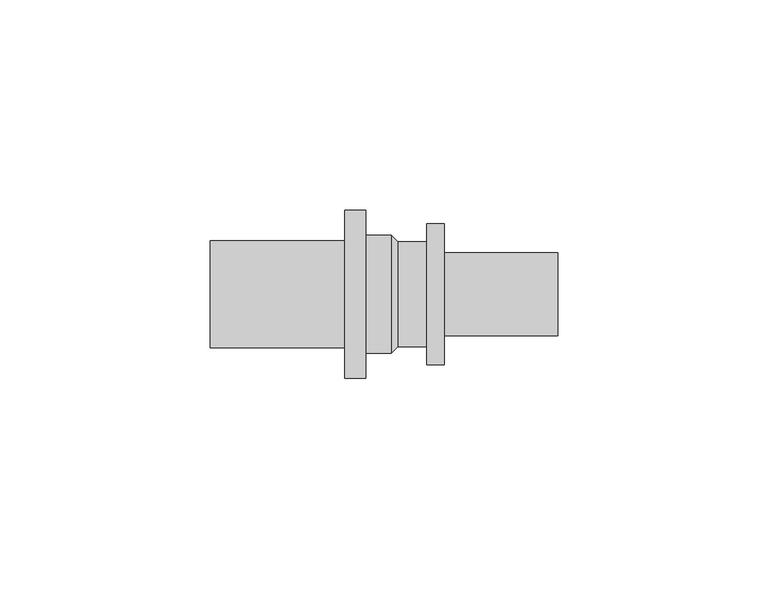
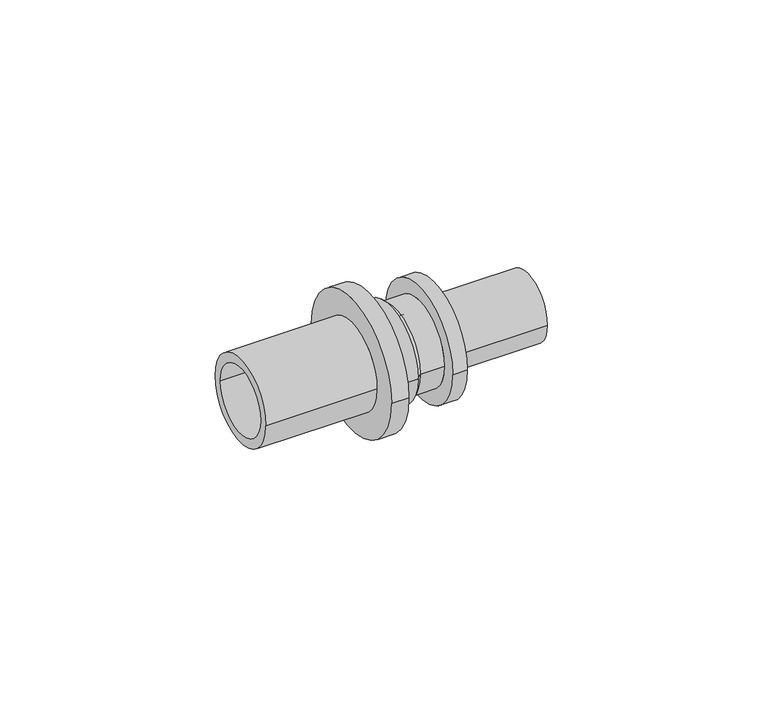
"""IFC4 building model written with IfcOpenShell, lengths in millimetres: pipe fitting geometry, RAUTITAN_Transition_LX : RTI LX Tr DE."""

from ifc_helpers import new_model, si_unit, frame, origin, place, context, project, spatial, polyline, circle_curve, source, transform, mapped, element, save
from ifc_brep_helpers import plane_surface, cylinder_surface, revolved_surface, advanced_brep


def pipe_fitting_d834bf19(model_context):
    return source(origin(), model_context, "Body", "AdvancedBrep", [
        advanced_brep(
        [(-43.85, 10.0, 0.0), (-43.85, -10.0, 0.0), (-1.2, -10.0, 0.0), (-1.2, 10.0, 0.0), (-0.75, 14.0, 0.0), (-0.75, -14.0, 0.0), (-6.85, -14.0, 0.0), (-6.85, 14.0, 0.0), (0.75, 12.5, 0.0), (0.75, -12.5, 0.0), (7.65, 12.5, 0.0), (7.65, -12.5, 0.0), (11.85, 16.8, 0.0), (11.85, -16.8, 0.0), (7.65, -16.8, 0.0), (7.65, 16.8, 0.0), (38.85, 9.9, 0.0), (38.85, -9.9, 0.0), (11.85, -9.9, 0.0), (11.85, 9.9, 0.0), (1.2, 7.6, 0.0), (1.2, -7.6, 0.0), (38.85, -7.6, 0.0), (38.85, 7.6, 0.0), (-6.85, 20.0, 0.0), (-6.85, -20.0, 0.0), (-11.85, 12.7, 0.0), (-11.85, -12.7, 0.0), (-43.85, -12.7, 0.0), (-43.85, 12.7, 0.0), (-11.85, -20.0, 0.0), (-11.85, 20.0, 0.0)],
        [
            (0, 1, circle_curve(frame((-43.85, 0.0, 0.0), z_axis=(-1.0, 0.0, 0.0), x_axis=(0.0, -1.0, 0.0)), 10.0)),
            (1, 2),
            (2, 3, circle_curve(frame((-1.2, 0.0, 0.0), z_axis=(1.0, 0.0, 0.0), x_axis=(0.0, -1.0, 0.0)), 10.0)),
            (3, 0),
            (4, 5, circle_curve(frame((-0.75, 0.0, 0.0), z_axis=(-1.0, 0.0, 0.0), x_axis=(0.0, -1.0, 0.0)), 14.0)),
            (5, 6),
            (6, 7, circle_curve(frame((-6.85, 0.0, 0.0), z_axis=(1.0, 0.0, 0.0), x_axis=(0.0, -1.0, 0.0)), 14.0)),
            (7, 4),
            (8, 9, circle_curve(frame((0.75, 0.0, 0.0), z_axis=(-1.0, 0.0, 0.0), x_axis=(0.0, -1.0, 0.0)), 12.5)),
            (9, 5),
            (4, 8),
            (10, 11, circle_curve(frame((7.65, 0.0, 0.0), z_axis=(-1.0, 0.0, 0.0), x_axis=(0.0, -1.0, 0.0)), 12.5)),
            (11, 9),
            (8, 10),
            (12, 13, circle_curve(frame((11.85, 0.0, 0.0), z_axis=(-1.0, 0.0, 0.0), x_axis=(0.0, -1.0, 0.0)), 16.8)),
            (13, 14),
            (14, 15, circle_curve(frame((7.65, 0.0, 0.0), z_axis=(1.0, 0.0, 0.0), x_axis=(0.0, -1.0, 0.0)), 16.8)),
            (15, 12),
            (16, 17, circle_curve(frame((38.85, 0.0, 0.0), z_axis=(-1.0, 0.0, 0.0), x_axis=(0.0, -1.0, 0.0)), 9.9)),
            (17, 18),
            (18, 19, circle_curve(frame((11.85, 0.0, 0.0), z_axis=(1.0, 0.0, 0.0), x_axis=(0.0, -1.0, 0.0)), 9.9)),
            (19, 16),
            (20, 21, circle_curve(frame((1.2, 0.0, 0.0), z_axis=(-1.0, 0.0, 0.0), x_axis=(0.0, -1.0, 0.0)), 7.6)),
            (21, 22),
            (22, 23, circle_curve(frame((38.85, 0.0, 0.0), z_axis=(1.0, 0.0, 0.0), x_axis=(0.0, -1.0, 0.0)), 7.6)),
            (23, 20),
            (2, 21),
            (20, 3),
            (1, 0, circle_curve(frame((-43.85, 0.0, 0.0), z_axis=(-1.0, 0.0, 0.0), x_axis=(0.0, 1.0, 0.0)), 10.0)),
            (3, 2, circle_curve(frame((-1.2, 0.0, 0.0), z_axis=(1.0, 0.0, 0.0), x_axis=(0.0, 1.0, 0.0)), 10.0)),
            (24, 25, circle_curve(frame((-6.85, 0.0, 0.0), z_axis=(1.0, 0.0, 0.0), x_axis=(0.0, 1.0, 0.0)), 20.0)),
            (25, 24, circle_curve(frame((-6.85, 0.0, 0.0), z_axis=(1.0, 0.0, 0.0), x_axis=(0.0, -1.0, 0.0)), 20.0)),
            (6, 7, circle_curve(frame((-6.85, 0.0, 0.0), z_axis=(-1.0, 0.0, 0.0), x_axis=(0.0, 1.0, 0.0)), 14.0)),
            (5, 4, circle_curve(frame((-0.75, 0.0, 0.0), z_axis=(-1.0, 0.0, 0.0), x_axis=(0.0, 1.0, 0.0)), 14.0)),
            (9, 8, circle_curve(frame((0.75, 0.0, 0.0), z_axis=(-1.0, 0.0, 0.0), x_axis=(0.0, 1.0, 0.0)), 12.5)),
            (11, 10, circle_curve(frame((7.65, 0.0, 0.0), z_axis=(-1.0, 0.0, 0.0), x_axis=(0.0, 1.0, 0.0)), 12.5)),
            (14, 15, circle_curve(frame((7.65, 0.0, 0.0), z_axis=(-1.0, 0.0, 0.0), x_axis=(0.0, 1.0, 0.0)), 16.8)),
            (13, 12, circle_curve(frame((11.85, 0.0, 0.0), z_axis=(-1.0, 0.0, 0.0), x_axis=(0.0, 1.0, 0.0)), 16.8)),
            (18, 19, circle_curve(frame((11.85, 0.0, 0.0), z_axis=(-1.0, 0.0, 0.0), x_axis=(0.0, 1.0, 0.0)), 9.9)),
            (17, 16, circle_curve(frame((38.85, 0.0, 0.0), z_axis=(-1.0, 0.0, 0.0), x_axis=(0.0, 1.0, 0.0)), 9.9)),
            (22, 23, circle_curve(frame((38.85, 0.0, 0.0), z_axis=(-1.0, 0.0, 0.0), x_axis=(0.0, 1.0, 0.0)), 7.6)),
            (21, 20, circle_curve(frame((1.2, 0.0, 0.0), z_axis=(-1.0, 0.0, 0.0), x_axis=(0.0, 1.0, 0.0)), 7.6)),
            (26, 27, circle_curve(frame((-11.85, 0.0, 0.0), z_axis=(-1.0, 0.0, 0.0), x_axis=(0.0, -1.0, 0.0)), 12.7)),
            (27, 28),
            (28, 29, circle_curve(frame((-43.85, 0.0, 0.0), z_axis=(1.0, 0.0, 0.0), x_axis=(0.0, -1.0, 0.0)), 12.7)),
            (29, 26),
            (25, 30),
            (30, 31, circle_curve(frame((-11.85, 0.0, 0.0), z_axis=(1.0, 0.0, 0.0), x_axis=(0.0, -1.0, 0.0)), 20.0)),
            (31, 24),
            (28, 29, circle_curve(frame((-43.85, 0.0, 0.0), z_axis=(-1.0, 0.0, 0.0), x_axis=(0.0, 1.0, 0.0)), 12.7)),
            (27, 26, circle_curve(frame((-11.85, 0.0, 0.0), z_axis=(-1.0, 0.0, 0.0), x_axis=(0.0, 1.0, 0.0)), 12.7)),
            (30, 31, circle_curve(frame((-11.85, 0.0, 0.0), z_axis=(-1.0, 0.0, 0.0), x_axis=(0.0, 1.0, 0.0)), 20.0)),
        ],
        [
            revolved_surface(polyline([(-1.2, -10.0, 0.0), (-43.85, -10.0, 0.0)]), (0.0, 0.0, 0.0), (1.0, 0.0, 0.0)),
            cylinder_surface(frame((0.0, 0.0, 0.0), z_axis=(1.0, 0.0, 0.0), x_axis=(0.0, -1.0, 0.0)), 14.0),
            revolved_surface(polyline([(-0.75, -14.0, 0.0), (0.75, -12.5, 0.0)]), (0.0, 0.0, 0.0), (1.0, 0.0, 0.0)),
            cylinder_surface(frame((0.0, 0.0, 0.0), z_axis=(1.0, 0.0, 0.0), x_axis=(0.0, -1.0, 0.0)), 12.5),
            cylinder_surface(frame((0.0, 0.0, 0.0), z_axis=(1.0, 0.0, 0.0), x_axis=(0.0, -1.0, 0.0)), 16.8),
            cylinder_surface(frame((0.0, 0.0, 0.0), z_axis=(1.0, 0.0, 0.0), x_axis=(0.0, -1.0, 0.0)), 9.9),
            revolved_surface(polyline([(38.85, -7.6, 0.0), (1.2, -7.6, 0.0)]), (0.0, 0.0, 0.0), (1.0, 0.0, 0.0)),
            revolved_surface(polyline([(1.2, -7.6, 0.0), (-1.2, -10.0, 0.0)]), (0.0, 0.0, 0.0), (1.0, 0.0, 0.0)),
            revolved_surface(polyline([(-1.2, 10.0, 0.0), (-43.85, 10.0, 0.0)]), (0.0, 0.0, 0.0), (1.0, 0.0, 0.0)),
            plane_surface(frame((-6.85, 0.0, 0.0), z_axis=(1.0, 0.0, 0.0), x_axis=(0.0, 1.0, 0.0))),
            cylinder_surface(frame((0.0, 0.0, 0.0), z_axis=(1.0, 0.0, 0.0), x_axis=(0.0, 1.0, 0.0)), 14.0),
            revolved_surface(polyline([(-0.75, 14.0, 0.0), (0.75, 12.5, 0.0)]), (0.0, 0.0, 0.0), (1.0, 0.0, 0.0)),
            cylinder_surface(frame((0.0, 0.0, 0.0), z_axis=(1.0, 0.0, 0.0), x_axis=(0.0, 1.0, 0.0)), 12.5),
            plane_surface(frame((7.65, 0.0, 0.0), z_axis=(-1.0, 0.0, 0.0), x_axis=(0.0, 1.0, 0.0))),
            cylinder_surface(frame((0.0, 0.0, 0.0), z_axis=(1.0, 0.0, 0.0), x_axis=(0.0, 1.0, 0.0)), 16.8),
            plane_surface(frame((11.85, 0.0, 0.0), z_axis=(1.0, 0.0, 0.0), x_axis=(0.0, 1.0, 0.0))),
            cylinder_surface(frame((0.0, 0.0, 0.0), z_axis=(1.0, 0.0, 0.0), x_axis=(0.0, 1.0, 0.0)), 9.9),
            plane_surface(frame((38.85, 0.0, 0.0), z_axis=(1.0, 0.0, 0.0), x_axis=(0.0, 1.0, 0.0))),
            revolved_surface(polyline([(38.85, 7.6, 0.0), (1.2, 7.6, 0.0)]), (0.0, 0.0, 0.0), (1.0, 0.0, 0.0)),
            revolved_surface(polyline([(1.2, 7.6, 0.0), (-1.2, 10.0, 0.0)]), (0.0, 0.0, 0.0), (1.0, 0.0, 0.0)),
            cylinder_surface(frame((0.0, 0.0, 0.0), z_axis=(1.0, 0.0, 0.0), x_axis=(0.0, -1.0, 0.0)), 12.7),
            cylinder_surface(frame((0.0, 0.0, 0.0), z_axis=(1.0, 0.0, 0.0), x_axis=(0.0, -1.0, 0.0)), 20.0),
            plane_surface(frame((-43.85, 0.0, 0.0), z_axis=(-1.0, 0.0, 0.0), x_axis=(0.0, 1.0, 0.0))),
            cylinder_surface(frame((0.0, 0.0, 0.0), z_axis=(1.0, 0.0, 0.0), x_axis=(0.0, 1.0, 0.0)), 12.7),
            plane_surface(frame((-11.85, 0.0, 0.0), z_axis=(-1.0, 0.0, 0.0), x_axis=(0.0, 1.0, 0.0))),
            cylinder_surface(frame((0.0, 0.0, 0.0), z_axis=(1.0, 0.0, 0.0), x_axis=(0.0, 1.0, 0.0)), 20.0),
        ],
        [
            (0, [[1, 2, 3, 4]]),
            (1, [[5, 6, 7, 8]]),
            (2, [[9, 10, -5, 11]]),
            (3, [[12, 13, -9, 14]]),
            (4, [[15, 16, 17, 18]]),
            (5, [[19, 20, 21, 22]]),
            (6, [[23, 24, 25, 26]]),
            (7, [[-3, 27, -23, 28]]),
            (8, [[29, -4, 30, -2]]),
            (9, [[31, 32], [33, -7]]),
            (10, [[34, -8, -33, -6]]),
            (11, [[35, -11, -34, -10]]),
            (12, [[36, -14, -35, -13]]),
            (13, [[37, -17], [-36, -12]]),
            (14, [[38, -18, -37, -16]]),
            (15, [[-38, -15], [39, -21]]),
            (16, [[40, -22, -39, -20]]),
            (17, [[-40, -19], [41, -25]]),
            (18, [[42, -26, -41, -24]]),
            (19, [[-30, -28, -42, -27]]),
            (20, [[43, 44, 45, 46]]),
            (21, [[-32, 47, 48, 49]]),
            (22, [[50, -45], [-29, -1]]),
            (23, [[51, -46, -50, -44]]),
            (24, [[52, -48], [-51, -43]]),
            (25, [[-31, -49, -52, -47]]),
        ],
    ),
    ])


if __name__ == "__main__":
    model = new_model("IFC4")
    model_context = context("Model", 3, world=origin())
    ifc_project = project(units=[si_unit("LENGTHUNIT", "METRE", prefix="MILLI")], contexts=[model_context])
    site = spatial("IfcSite", under=ifc_project)
    building = spatial("IfcBuilding", under=site)
    placement = place(None, origin())
    pipe_fitting_shape = pipe_fitting_d834bf19(model_context)
    element("IfcPipeFitting", 1, ObjectType="RAUTITAN_Transition_LX : RTI LX Tr DE", at=placement, inside=building, context=model_context, shape_type="MappedRepresentation", body=[
        mapped(pipe_fitting_shape, transform((0.0, 0.0, 0.0), x_axis=(1.0, 0.0, 0.0), y_axis=(0.0, 1.0, 0.0), z_axis=(0.0, 0.0, 1.0))),
    ])
    save(model, "model.ifc")
